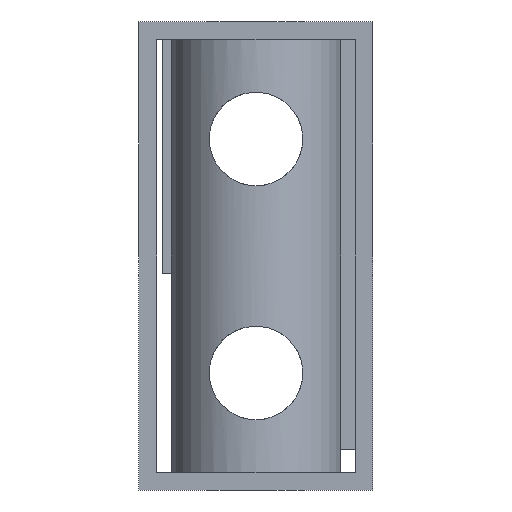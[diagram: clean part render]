
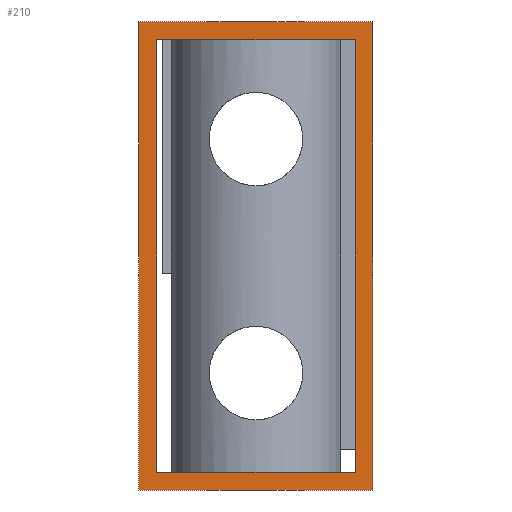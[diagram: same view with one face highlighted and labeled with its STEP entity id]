
A CAD part, front view. The second image highlights one B-rep face of the part: STEP entity #210.
In plain terms, the highlighted planar face has unit normal (0, -1, 0).
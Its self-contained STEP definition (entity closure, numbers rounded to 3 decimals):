
#210 = ADVANCED_FACE( '', ( #451, #452 ), #453, .F. );
#451 = FACE_BOUND( '', #745, .T. );
#452 = FACE_OUTER_BOUND( '', #746, .T. );
#453 = PLANE( '', #747 );
#745 = EDGE_LOOP( '', ( #1139, #1140, #1141, #1142 ) );
#746 = EDGE_LOOP( '', ( #1143, #1144, #1145, #1146 ) );
#747 = AXIS2_PLACEMENT_3D( '', #1147, #1148, #1149 );
#1139 = ORIENTED_EDGE( '', *, *, #1464, .T. );
#1140 = ORIENTED_EDGE( '', *, *, #1555, .T. );
#1141 = ORIENTED_EDGE( '', *, *, #1556, .T. );
#1142 = ORIENTED_EDGE( '', *, *, #1433, .T. );
#1143 = ORIENTED_EDGE( '', *, *, #1557, .F. );
#1144 = ORIENTED_EDGE( '', *, *, #1558, .F. );
#1145 = ORIENTED_EDGE( '', *, *, #1490, .F. );
#1146 = ORIENTED_EDGE( '', *, *, #1559, .F. );
#1147 = CARTESIAN_POINT( '', ( 0., -20., 0. ) );
#1148 = DIRECTION( '', ( 0., 1., 0. ) );
#1149 = DIRECTION( '', ( 0., 0., 1. ) );
#1433 = EDGE_CURVE( '', #1642, #1643, #1644, .T. );
#1464 = EDGE_CURVE( '', #1643, #1697, #1698, .T. );
#1490 = EDGE_CURVE( '', #1741, #1742, #1743, .T. );
#1555 = EDGE_CURVE( '', #1697, #1847, #1848, .T. );
#1556 = EDGE_CURVE( '', #1847, #1642, #1849, .T. );
#1557 = EDGE_CURVE( '', #1850, #1851, #1852, .T. );
#1558 = EDGE_CURVE( '', #1742, #1850, #1853, .T. );
#1559 = EDGE_CURVE( '', #1851, #1741, #1854, .T. );
#1642 = VERTEX_POINT( '', #2099 );
#1643 = VERTEX_POINT( '', #2100 );
#1644 = LINE( '', #2101, #2102 );
#1697 = VERTEX_POINT( '', #2173 );
#1698 = LINE( '', #2174, #2175 );
#1741 = VERTEX_POINT( '', #2230 );
#1742 = VERTEX_POINT( '', #2231 );
#1743 = LINE( '', #2232, #2233 );
#1847 = VERTEX_POINT( '', #2357 );
#1848 = LINE( '', #2358, #2359 );
#1849 = LINE( '', #2360, #2361 );
#1850 = VERTEX_POINT( '', #2362 );
#1851 = VERTEX_POINT( '', #2363 );
#1852 = LINE( '', #2364, #2365 );
#1853 = LINE( '', #2366, #2367 );
#1854 = LINE( '', #2368, #2369 );
#2099 = CARTESIAN_POINT( '', ( 8.5, -20., -8.5 ) );
#2100 = CARTESIAN_POINT( '', ( -8.5, -20., -8.5 ) );
#2101 = CARTESIAN_POINT( '', ( 8.5, -20., -8.5 ) );
#2102 = VECTOR( '', #2912, 1000. );
#2173 = CARTESIAN_POINT( '', ( -8.5, -20., 28.5 ) );
#2174 = CARTESIAN_POINT( '', ( -8.5, -20., -8.5 ) );
#2175 = VECTOR( '', #2949, 1000. );
#2230 = CARTESIAN_POINT( '', ( 10., -20., 30. ) );
#2231 = CARTESIAN_POINT( '', ( 10., -20., -10. ) );
#2232 = CARTESIAN_POINT( '', ( 10., -20., 30. ) );
#2233 = VECTOR( '', #2986, 1000. );
#2357 = CARTESIAN_POINT( '', ( 8.5, -20., 28.5 ) );
#2358 = CARTESIAN_POINT( '', ( -8.5, -20., 28.5 ) );
#2359 = VECTOR( '', #3082, 1000. );
#2360 = CARTESIAN_POINT( '', ( 8.5, -20., 28.5 ) );
#2361 = VECTOR( '', #3083, 1000. );
#2362 = CARTESIAN_POINT( '', ( -10., -20., -10. ) );
#2363 = CARTESIAN_POINT( '', ( -10., -20., 30. ) );
#2364 = CARTESIAN_POINT( '', ( -10., -20., -10. ) );
#2365 = VECTOR( '', #3084, 1000. );
#2366 = CARTESIAN_POINT( '', ( 10., -20., -10. ) );
#2367 = VECTOR( '', #3085, 1000. );
#2368 = CARTESIAN_POINT( '', ( -10., -20., 30. ) );
#2369 = VECTOR( '', #3086, 1000. );
#2912 = DIRECTION( '', ( -1., 0., 0. ) );
#2949 = DIRECTION( '', ( 0., 0., 1. ) );
#2986 = DIRECTION( '', ( 0., 0., -1. ) );
#3082 = DIRECTION( '', ( 1., 0., 0. ) );
#3083 = DIRECTION( '', ( 0., 0., -1. ) );
#3084 = DIRECTION( '', ( 0., 0., 1. ) );
#3085 = DIRECTION( '', ( -1., 0., 0. ) );
#3086 = DIRECTION( '', ( 1., 0., 0. ) );
